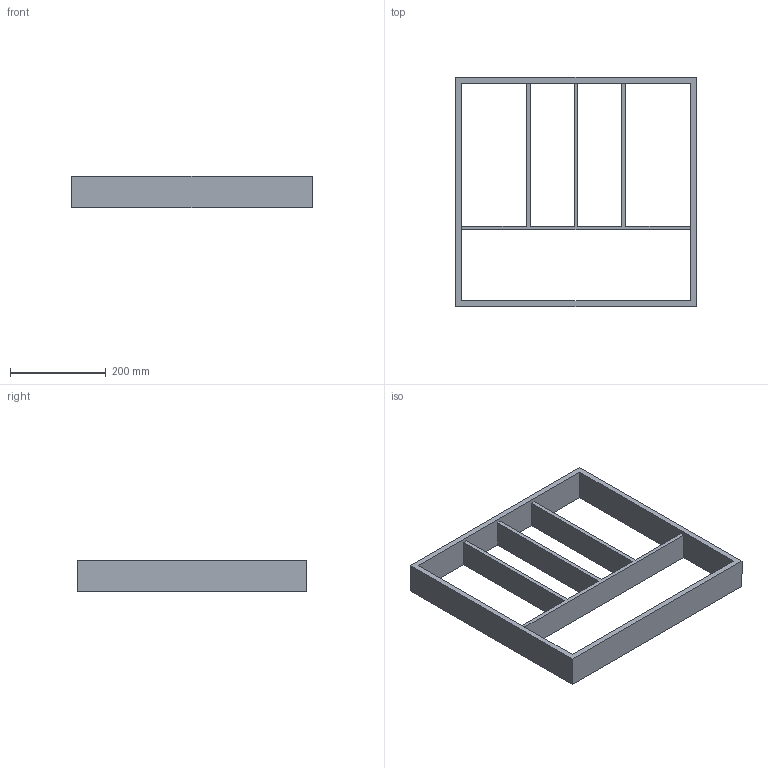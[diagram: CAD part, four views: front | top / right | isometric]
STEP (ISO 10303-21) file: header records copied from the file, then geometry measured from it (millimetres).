
FILE_DESCRIPTION (( 'STEP AP214' ), '1' );
FILE_NAME ('Vario Multi NL500_B600_19 mm_Buche.step', '2010-10-07T06:24:19', ( 'grass' ), ( '' ), 'SwSTEP 2.0', 'SolidWorks 2010', '' );
FILE_SCHEMA (( 'AUTOMOTIVE_DESIGN' ));
Length unit declared in the file: millimetre
Products named in the file (1): Vario Multi NL500_B600_19 mm_Buche
Bounding box: 502 x 479 x 65 mm (x, y, z)
Volume: 2119646.4 mm3; surface area: 469780 mm2
Topology: 1 solids, 1 shells, 22 faces, 72 edges, 48 vertices
Faces by surface type: plane 22
Entity records: 830 total; most frequent: ORIENTED_EDGE 144, CARTESIAN_POINT 143, DIRECTION 118, EDGE_CURVE 72, VECTOR 72, LINE 72, VERTEX_POINT 48, EDGE_LOOP 28
